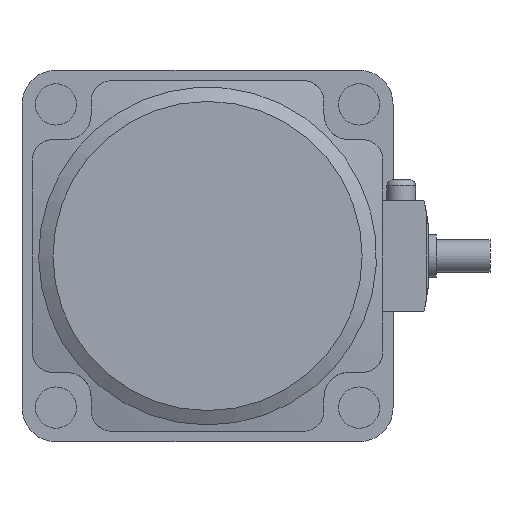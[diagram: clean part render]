
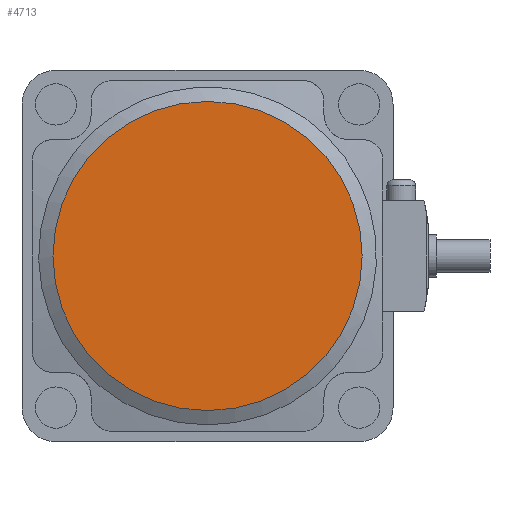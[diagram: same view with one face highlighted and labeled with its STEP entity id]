
A CAD part, left-side view. The second image highlights one B-rep face of the part: STEP entity #4713.
In plain terms, the highlighted planar face has unit normal (-1, 0, 0).
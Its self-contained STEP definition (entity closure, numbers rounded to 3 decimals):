
#272=CIRCLE('',#5192,37.5);
#1503=ORIENTED_EDGE('',*,*,#2339,.F.);
#2339=EDGE_CURVE('',#2851,#2851,#272,.T.);
#2851=VERTEX_POINT('',#7903);
#3987=EDGE_LOOP('',(#1503));
#4300=FACE_BOUND('',#3987,.T.);
#4478=PLANE('',#5191);
#4713=ADVANCED_FACE('',(#4300),#4478,.F.);
#5191=AXIS2_PLACEMENT_3D('',#7901,#6461,#6462);
#5192=AXIS2_PLACEMENT_3D('',#7902,#6463,#6464);
#6461=DIRECTION('',(1.,0.,0.));
#6462=DIRECTION('',(0.,0.,-1.));
#6463=DIRECTION('',(1.,0.,0.));
#6464=DIRECTION('',(0.,0.,-1.));
#7901=CARTESIAN_POINT('',(-79.5,-36.8,36.8));
#7902=CARTESIAN_POINT('',(-79.5,0.,0.));
#7903=CARTESIAN_POINT('',(-79.5,0.,-37.5));
